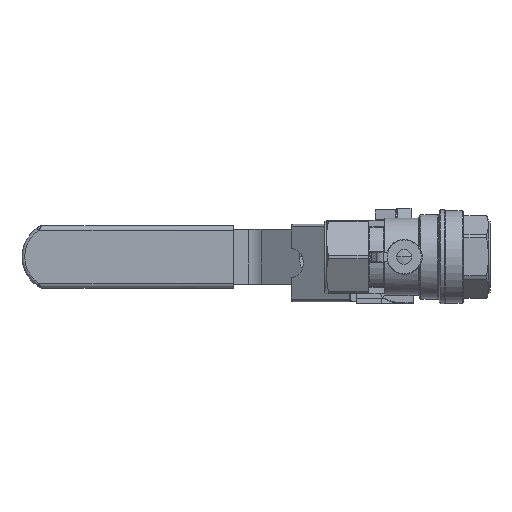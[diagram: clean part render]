
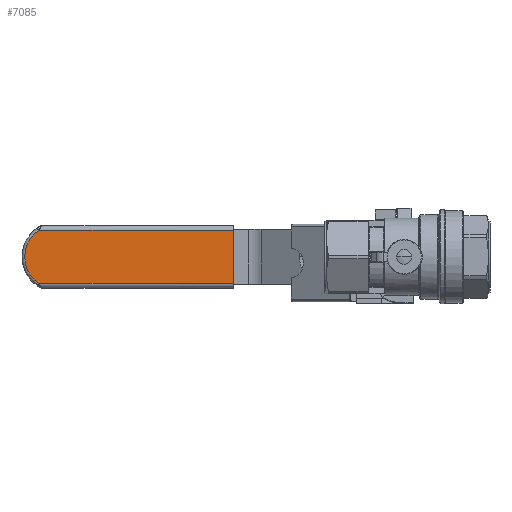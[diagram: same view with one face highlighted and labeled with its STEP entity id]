
A CAD part, front view. The second image highlights one B-rep face of the part: STEP entity #7085.
In plain terms, the highlighted planar face has unit normal (0, -1, 0).
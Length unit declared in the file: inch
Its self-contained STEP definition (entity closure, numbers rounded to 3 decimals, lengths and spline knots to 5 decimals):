
#411 = EDGE_CURVE ( 'NONE', #13639, #4428, #10238, .T. ) ;
#534 = VERTEX_POINT ( 'NONE', #14459 ) ;
#2093 = VECTOR ( 'NONE', #7022, 39.37008 ) ;
#2370 = CIRCLE ( 'NONE', #8860, 0.34378 ) ;
#3362 = EDGE_CURVE ( 'NONE', #9293, #534, #2370, .T. ) ;
#3848 = CARTESIAN_POINT ( 'NONE',  ( -1.82, 1.69, -0.283 ) ) ;
#4428 = VERTEX_POINT ( 'NONE', #7923 ) ;
#4832 = CARTESIAN_POINT ( 'NONE',  ( -1.82, 1.69, 0.283 ) ) ;
#4958 = EDGE_CURVE ( 'NONE', #13639, #534, #14061, .T. ) ;
#5201 = FACE_OUTER_BOUND ( 'NONE', #10148, .T. ) ;
#5431 = CARTESIAN_POINT ( 'NONE',  ( -3.70622, 1.69, 0. ) ) ;
#5649 = ORIENTED_EDGE ( 'NONE', *, *, #411, .T. ) ;
#6495 = VECTOR ( 'NONE', #10018, 39.37008 ) ;
#6726 = DIRECTION ( 'NONE',  ( 0., 0., -1. ) ) ;
#7022 = DIRECTION ( 'NONE',  ( -1., 0., 0. ) ) ;
#7085 = ADVANCED_FACE ( 'NONE', ( #5201 ), #10294, .T. ) ;
#7923 = CARTESIAN_POINT ( 'NONE',  ( -1.82, 1.69, 0.283 ) ) ;
#8245 = DIRECTION ( 'NONE',  ( 0., -1., 0. ) ) ;
#8543 = EDGE_CURVE ( 'NONE', #4428, #9293, #16424, .T. ) ;
#8860 = AXIS2_PLACEMENT_3D ( 'NONE', #5431, #8245, #10535 ) ;
#9114 = VECTOR ( 'NONE', #15127, 39.37008 ) ;
#9293 = VERTEX_POINT ( 'NONE', #15587 ) ;
#9440 = AXIS2_PLACEMENT_3D ( 'NONE', #3848, #12987, #6726 ) ;
#10018 = DIRECTION ( 'NONE',  ( -1., 0., 0. ) ) ;
#10148 = EDGE_LOOP ( 'NONE', ( #13341, #10165, #13695, #5649 ) ) ;
#10165 = ORIENTED_EDGE ( 'NONE', *, *, #3362, .T. ) ;
#10238 = LINE ( 'NONE', #11331, #9114 ) ;
#10294 = PLANE ( 'NONE',  #9440 ) ;
#10535 = DIRECTION ( 'NONE',  ( 0., 0., -1. ) ) ;
#11331 = CARTESIAN_POINT ( 'NONE',  ( -1.82, 1.69, -0.283 ) ) ;
#12987 = DIRECTION ( 'NONE',  ( 0., -1., 0. ) ) ;
#13341 = ORIENTED_EDGE ( 'NONE', *, *, #8543, .T. ) ;
#13639 = VERTEX_POINT ( 'NONE', #15867 ) ;
#13695 = ORIENTED_EDGE ( 'NONE', *, *, #4958, .F. ) ;
#14061 = LINE ( 'NONE', #14719, #2093 ) ;
#14459 = CARTESIAN_POINT ( 'NONE',  ( -3.9014, 1.69, -0.283 ) ) ;
#14719 = CARTESIAN_POINT ( 'NONE',  ( -1.82, 1.69, -0.283 ) ) ;
#15127 = DIRECTION ( 'NONE',  ( 0., 0., 1. ) ) ;
#15587 = CARTESIAN_POINT ( 'NONE',  ( -3.9014, 1.69, 0.283 ) ) ;
#15867 = CARTESIAN_POINT ( 'NONE',  ( -1.82, 1.69, -0.283 ) ) ;
#16424 = LINE ( 'NONE', #4832, #6495 ) ;
